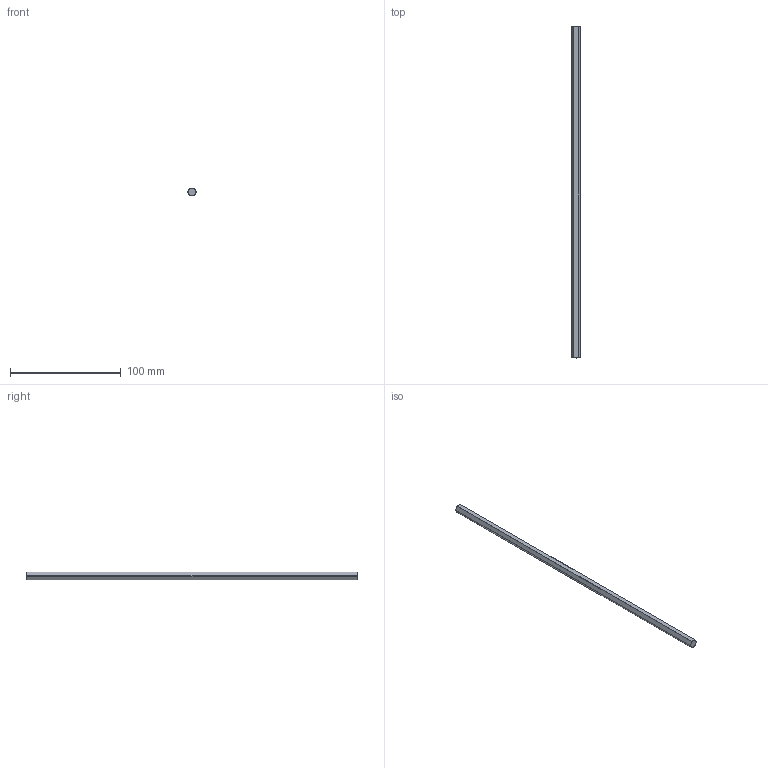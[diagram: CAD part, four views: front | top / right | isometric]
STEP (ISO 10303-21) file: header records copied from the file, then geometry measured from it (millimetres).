
FILE_DESCRIPTION (( 'STEP AP203' ), '1' );
FILE_NAME ('2102-0008-0300.STEP', '2019-01-22T15:23:22', ( '' ), ( '' ), 'SwSTEP 2.0', 'SolidWorks 2016', '' );
FILE_SCHEMA (( 'CONFIG_CONTROL_DESIGN' ));
Length unit declared in the file: millimetre
Products named in the file (1): 2102-0008-0300
Bounding box: 8 x 300 x 7 mm (x, y, z)
Volume: 12723.9 mm3; surface area: 7313.3 mm2
Topology: 1 solids, 1 shells, 26 faces, 60 edges, 36 vertices
Faces by surface type: cone 12, plane 8, cylinder 6
Entity records: 913 total; most frequent: CARTESIAN_POINT 275, ORIENTED_EDGE 120, DIRECTION 114, EDGE_CURVE 60, AXIS2_PLACEMENT_3D 51, VERTEX_POINT 36, EDGE_LOOP 26, FACE_OUTER_BOUND 26
